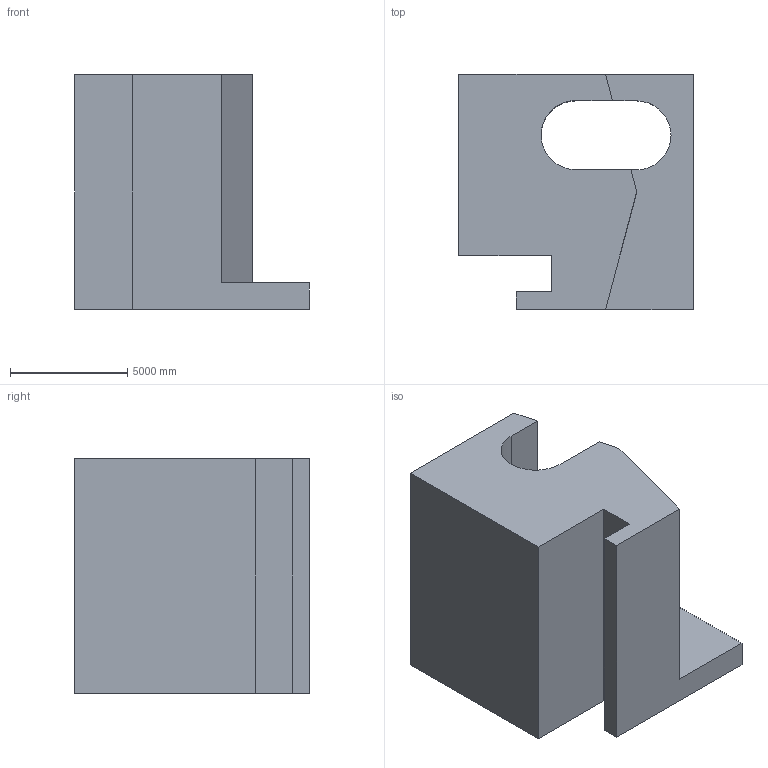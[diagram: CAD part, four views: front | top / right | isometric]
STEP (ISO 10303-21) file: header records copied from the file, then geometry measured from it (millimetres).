
FILE_DESCRIPTION (( 'STEP AP203' ), '1' );
FILE_NAME ('1375.STEP', '2022-08-18T14:07:06', ( 'user' ), ( '' ), 'SwSTEP 2.0', 'SolidWorks 2021', '' );
FILE_SCHEMA (( 'CONFIG_CONTROL_DESIGN' ));
Length unit declared in the file: centimetre
Products named in the file (1): 1375
Bounding box: 10000 x 10000 x 10000 mm (x, y, z)
Volume: 550159001585.6 mm3; surface area: 587318876.5 mm2
Topology: 1 solids, 1 shells, 19 faces, 54 edges, 36 vertices
Faces by surface type: plane 16, cylinder 3
Entity records: 695 total; most frequent: CARTESIAN_POINT 110, ORIENTED_EDGE 108, DIRECTION 100, EDGE_CURVE 54, LINE 48, VECTOR 48, VERTEX_POINT 36, AXIS2_PLACEMENT_3D 26
